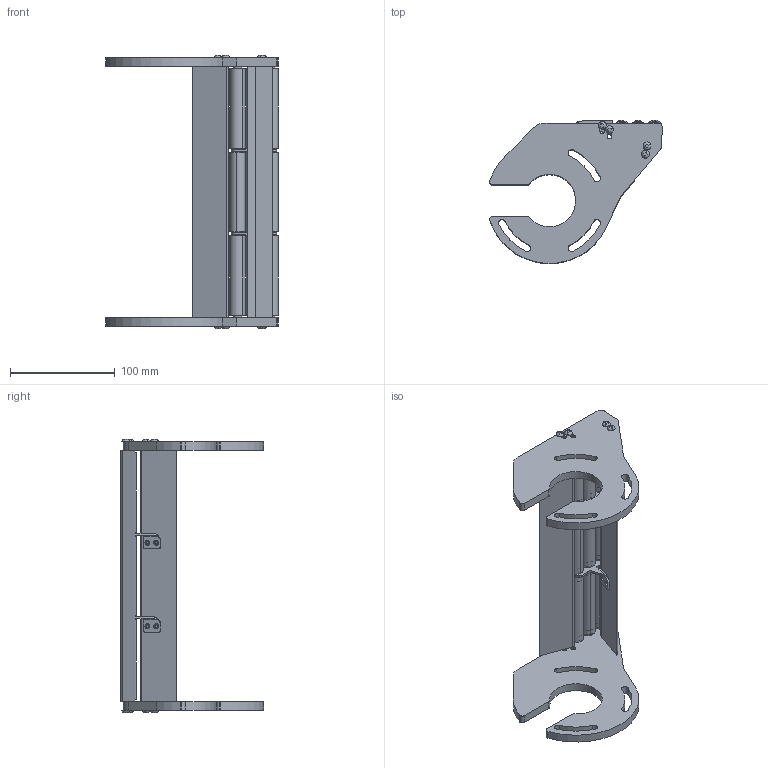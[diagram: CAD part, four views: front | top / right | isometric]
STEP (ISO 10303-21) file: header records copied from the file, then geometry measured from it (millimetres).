
FILE_DESCRIPTION (( 'STEP AP214' ), '1' );
FILE_NAME ('CAB 9 TGRI 1.STEP', '2024-02-27T08:04:00', ( '' ), ( '' ), 'SwSTEP 2.0', 'SolidWorks 2022', '' );
FILE_SCHEMA (( 'AUTOMOTIVE_DESIGN' ));
Length unit declared in the file: millimetre
Products named in the file (15): PSTI CAB 1; SA TGRI; ROULEMENT TGRI CAB FLEXTOO; PT-F2 - CAB 9 percé; GR CAB 9; Galet + roulement CAB 9; CAB 9 TGRI 1; ENTRETOISE TGRI CAB-F2-R-HEF; SA TGRI + ENTRETOISE; TBHC 4X16; AXE TGRI CAB 9; ENTRETOISE SA TGRI; Insert M4 TB; PSTI CAB 1 Symétrie; PT-F2 - CAB 9
Assembly tree (43 placements, depth 3):
  CAB 9 TGRI 1
    PSTI CAB 1
    PSTI CAB 1 Symétrie
    PT-F2 - CAB 9 percé
    PT-F2 - CAB 9
    AXE TGRI CAB 9  x3
    ENTRETOISE TGRI CAB-F2-R-HEF  x6
    Galet + roulement CAB 9  x9
      GR CAB 9
      ROULEMENT TGRI CAB FLEXTOO
    SA TGRI + ENTRETOISE  x2
      SA TGRI
      ENTRETOISE SA TGRI
    Insert M4 TB  x4
    TBHC 4X16  x8
Bounding box: 164.87 x 136.6 x 260.78 mm (x, y, z)
Volume: 421495.1 mm3; surface area: 191111.1 mm2
Topology: 60 solids, 60 shells, 2294 faces, 5040 edges, 2938 vertices
Faces by surface type: cone 1024, cylinder 632, plane 356, torus 246, sphere 26, bspline 10
Entity records: 18186 total; most frequent: CARTESIAN_POINT 3351, DIRECTION 3203, ORIENTED_EDGE 2664, EDGE_CURVE 1332, AXIS2_PLACEMENT_3D 1298, VERTEX_POINT 807, CIRCLE 687, EDGE_LOOP 625
